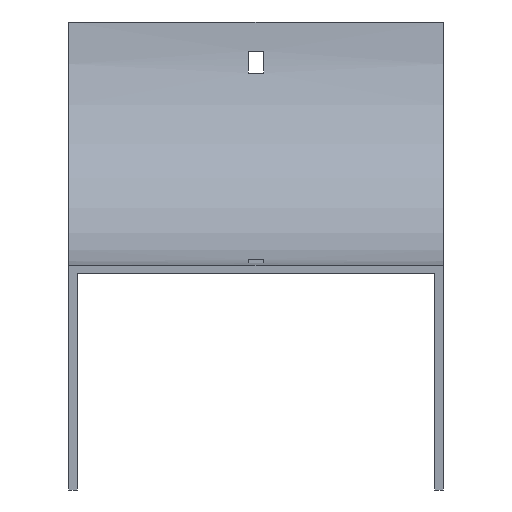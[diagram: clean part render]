
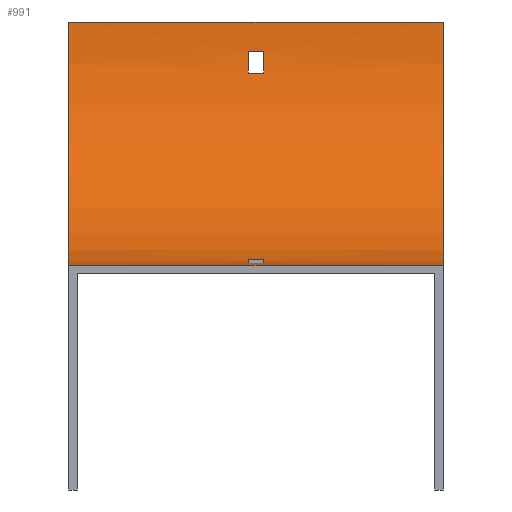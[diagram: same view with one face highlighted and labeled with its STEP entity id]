
A CAD part, front view. The second image highlights one B-rep face of the part: STEP entity #991.
In plain terms, the highlighted cylindrical face has radius 100 mm (diameter 200 mm), a partial arc.
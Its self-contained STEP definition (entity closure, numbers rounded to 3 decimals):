
#16 = DIRECTION ( 'NONE',  ( 0., -1., 0. ) ) ;
#47 = CARTESIAN_POINT ( 'NONE',  ( 77., -100., -100. ) ) ;
#55 = EDGE_CURVE ( 'NONE', #1085, #884, #65, .T. ) ;
#65 = LINE ( 'NONE', #958, #1037 ) ;
#68 = DIRECTION ( 'NONE',  ( -1., 0., 0. ) ) ;
#71 = CARTESIAN_POINT ( 'NONE',  ( 77., -79., -97.77 ) ) ;
#76 = DIRECTION ( 'NONE',  ( -1., 0., 0. ) ) ;
#124 = VECTOR ( 'NONE', #1183, 1000. ) ;
#137 = CARTESIAN_POINT ( 'NONE',  ( -3.25, -2.23, -21. ) ) ;
#144 = DIRECTION ( 'NONE',  ( 0., 0., 1. ) ) ;
#146 = DIRECTION ( 'NONE',  ( 0., 0., 1. ) ) ;
#171 = LINE ( 'NONE', #71, #1166 ) ;
#208 = ORIENTED_EDGE ( 'NONE', *, *, #762, .F. ) ;
#247 = AXIS2_PLACEMENT_3D ( 'NONE', #1087, #68, #1629 ) ;
#253 = ORIENTED_EDGE ( 'NONE', *, *, #824, .F. ) ;
#263 = ORIENTED_EDGE ( 'NONE', *, *, #1379, .T. ) ;
#278 = DIRECTION ( 'NONE',  ( 0., 0., -1. ) ) ;
#282 = LINE ( 'NONE', #1549, #1325 ) ;
#284 = ORIENTED_EDGE ( 'NONE', *, *, #348, .F. ) ;
#292 = CARTESIAN_POINT ( 'NONE',  ( -77., 0., 0. ) ) ;
#293 = VERTEX_POINT ( 'NONE', #549 ) ;
#323 = EDGE_CURVE ( 'NONE', #782, #1085, #559, .T. ) ;
#332 = ORIENTED_EDGE ( 'NONE', *, *, #752, .F. ) ;
#348 = EDGE_CURVE ( 'NONE', #982, #1052, #1200, .T. ) ;
#350 = AXIS2_PLACEMENT_3D ( 'NONE', #978, #76, #1106 ) ;
#386 = ORIENTED_EDGE ( 'NONE', *, *, #1305, .F. ) ;
#408 = DIRECTION ( 'NONE',  ( -1., 0., 0. ) ) ;
#413 = CARTESIAN_POINT ( 'NONE',  ( 3.25, -100., 0. ) ) ;
#418 = AXIS2_PLACEMENT_3D ( 'NONE', #413, #1207, #278 ) ;
#429 = LINE ( 'NONE', #1312, #124 ) ;
#430 = DIRECTION ( 'NONE',  ( -1., 0., 0. ) ) ;
#435 = CIRCLE ( 'NONE', #247, 100. ) ;
#441 = CYLINDRICAL_SURFACE ( 'NONE', #610, 100. ) ;
#476 = VERTEX_POINT ( 'NONE', #941 ) ;
#491 = VERTEX_POINT ( 'NONE', #552 ) ;
#498 = EDGE_CURVE ( 'NONE', #884, #960, #1432, .T. ) ;
#530 = ORIENTED_EDGE ( 'NONE', *, *, #323, .T. ) ;
#549 = CARTESIAN_POINT ( 'NONE',  ( 3.25, -88., -99.277 ) ) ;
#552 = CARTESIAN_POINT ( 'NONE',  ( -3.25, -79., -97.77 ) ) ;
#555 = CARTESIAN_POINT ( 'NONE',  ( 3.25, -2.23, -21. ) ) ;
#559 = CIRCLE ( 'NONE', #992, 100. ) ;
#566 = FACE_BOUND ( 'NONE', #889, .T. ) ;
#584 = CARTESIAN_POINT ( 'NONE',  ( 77., -100., -100. ) ) ;
#610 = AXIS2_PLACEMENT_3D ( 'NONE', #1082, #1378, #1623 ) ;
#614 = VECTOR ( 'NONE', #408, 1000. ) ;
#640 = AXIS2_PLACEMENT_3D ( 'NONE', #1423, #1042, #16 ) ;
#653 = CARTESIAN_POINT ( 'NONE',  ( 77., -100., 0. ) ) ;
#719 = CARTESIAN_POINT ( 'NONE',  ( 3.25, -0.723, -12. ) ) ;
#752 = EDGE_CURVE ( 'NONE', #1659, #293, #282, .T. ) ;
#762 = EDGE_CURVE ( 'NONE', #293, #780, #1428, .T. ) ;
#772 = CARTESIAN_POINT ( 'NONE',  ( 3.25, -79., -97.77 ) ) ;
#780 = VERTEX_POINT ( 'NONE', #772 ) ;
#782 = VERTEX_POINT ( 'NONE', #137 ) ;
#784 = EDGE_CURVE ( 'NONE', #476, #982, #1429, .T. ) ;
#824 = EDGE_CURVE ( 'NONE', #780, #491, #171, .T. ) ;
#884 = VERTEX_POINT ( 'NONE', #719 ) ;
#889 = EDGE_LOOP ( 'NONE', ( #1590, #530, #1530, #1262 ) ) ;
#941 = CARTESIAN_POINT ( 'NONE',  ( 77., 0., 0. ) ) ;
#958 = CARTESIAN_POINT ( 'NONE',  ( 77., -0.723, -12. ) ) ;
#960 = VERTEX_POINT ( 'NONE', #555 ) ;
#972 = FACE_OUTER_BOUND ( 'NONE', #1179, .T. ) ;
#978 = CARTESIAN_POINT ( 'NONE',  ( -3.25, -100., 0. ) ) ;
#982 = VERTEX_POINT ( 'NONE', #584 ) ;
#991 = ADVANCED_FACE ( 'NONE', ( #972, #566, #1504 ), #441, .F. ) ;
#992 = AXIS2_PLACEMENT_3D ( 'NONE', #1309, #1038, #146 ) ;
#1002 = CIRCLE ( 'NONE', #350, 100. ) ;
#1037 = VECTOR ( 'NONE', #1488, 1000. ) ;
#1038 = DIRECTION ( 'NONE',  ( 1., 0., 0. ) ) ;
#1039 = EDGE_LOOP ( 'NONE', ( #386, #253, #208, #332 ) ) ;
#1041 = CARTESIAN_POINT ( 'NONE',  ( -3.25, -88., -99.277 ) ) ;
#1042 = DIRECTION ( 'NONE',  ( 1., 0., 0. ) ) ;
#1051 = DIRECTION ( 'NONE',  ( 1., 0., 0. ) ) ;
#1052 = VERTEX_POINT ( 'NONE', #1069 ) ;
#1069 = CARTESIAN_POINT ( 'NONE',  ( -77., -100., -100. ) ) ;
#1082 = CARTESIAN_POINT ( 'NONE',  ( 77., -100., 0. ) ) ;
#1085 = VERTEX_POINT ( 'NONE', #1391 ) ;
#1087 = CARTESIAN_POINT ( 'NONE',  ( -77., -100., 0. ) ) ;
#1106 = DIRECTION ( 'NONE',  ( 0., 1., 0. ) ) ;
#1113 = VECTOR ( 'NONE', #1439, 1000. ) ;
#1158 = LINE ( 'NONE', #1324, #1113 ) ;
#1166 = VECTOR ( 'NONE', #430, 1000. ) ;
#1179 = EDGE_LOOP ( 'NONE', ( #263, #284, #1408, #1452 ) ) ;
#1183 = DIRECTION ( 'NONE',  ( -1., 0., 0. ) ) ;
#1200 = LINE ( 'NONE', #47, #614 ) ;
#1207 = DIRECTION ( 'NONE',  ( -1., 0., 0. ) ) ;
#1262 = ORIENTED_EDGE ( 'NONE', *, *, #498, .T. ) ;
#1305 = EDGE_CURVE ( 'NONE', #491, #1659, #1002, .T. ) ;
#1306 = DIRECTION ( 'NONE',  ( -1., 0., 0. ) ) ;
#1309 = CARTESIAN_POINT ( 'NONE',  ( -3.25, -100., 0. ) ) ;
#1312 = CARTESIAN_POINT ( 'NONE',  ( 77., 0., 0. ) ) ;
#1324 = CARTESIAN_POINT ( 'NONE',  ( 77., -2.23, -21. ) ) ;
#1325 = VECTOR ( 'NONE', #1051, 1000. ) ;
#1351 = AXIS2_PLACEMENT_3D ( 'NONE', #653, #1306, #144 ) ;
#1378 = DIRECTION ( 'NONE',  ( -1., 0., 0. ) ) ;
#1379 = EDGE_CURVE ( 'NONE', #1592, #1052, #435, .T. ) ;
#1391 = CARTESIAN_POINT ( 'NONE',  ( -3.25, -0.723, -12. ) ) ;
#1408 = ORIENTED_EDGE ( 'NONE', *, *, #784, .F. ) ;
#1423 = CARTESIAN_POINT ( 'NONE',  ( 3.25, -100., 0. ) ) ;
#1428 = CIRCLE ( 'NONE', #640, 100. ) ;
#1429 = CIRCLE ( 'NONE', #1351, 100. ) ;
#1432 = CIRCLE ( 'NONE', #418, 100. ) ;
#1439 = DIRECTION ( 'NONE',  ( -1., 0., 0. ) ) ;
#1452 = ORIENTED_EDGE ( 'NONE', *, *, #1586, .T. ) ;
#1488 = DIRECTION ( 'NONE',  ( 1., 0., 0. ) ) ;
#1504 = FACE_BOUND ( 'NONE', #1039, .T. ) ;
#1530 = ORIENTED_EDGE ( 'NONE', *, *, #55, .T. ) ;
#1549 = CARTESIAN_POINT ( 'NONE',  ( 77., -88., -99.277 ) ) ;
#1578 = EDGE_CURVE ( 'NONE', #960, #782, #1158, .T. ) ;
#1586 = EDGE_CURVE ( 'NONE', #476, #1592, #429, .T. ) ;
#1590 = ORIENTED_EDGE ( 'NONE', *, *, #1578, .T. ) ;
#1592 = VERTEX_POINT ( 'NONE', #292 ) ;
#1623 = DIRECTION ( 'NONE',  ( 0., 0., 1. ) ) ;
#1629 = DIRECTION ( 'NONE',  ( 0., 0., 1. ) ) ;
#1659 = VERTEX_POINT ( 'NONE', #1041 ) ;
